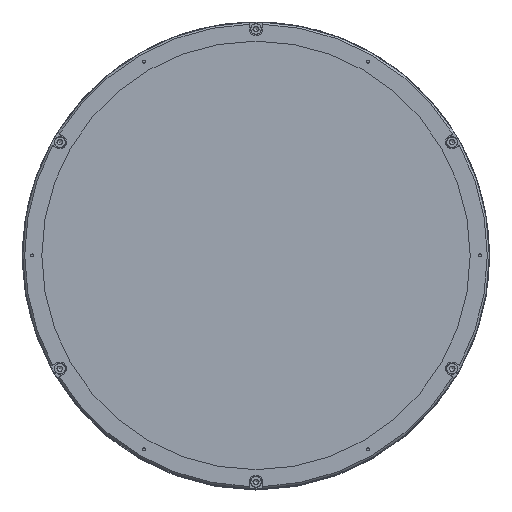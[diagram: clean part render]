
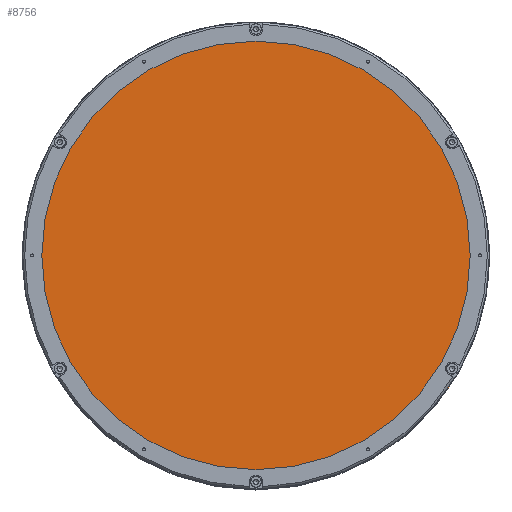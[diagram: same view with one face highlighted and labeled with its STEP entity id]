
A CAD part, top view. The second image highlights one B-rep face of the part: STEP entity #8756.
In plain terms, the highlighted planar face has unit normal (0, 0, 1).
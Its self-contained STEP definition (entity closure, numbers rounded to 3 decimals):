
#1667 = ORIENTED_EDGE ( 'NONE', *, *, #15848, .F. ) ;
#2134 = FACE_BOUND ( 'NONE', #19024, .T. ) ;
#4441 = PLANE ( 'NONE',  #20567 ) ;
#4714 = CARTESIAN_POINT ( 'NONE',  ( 115., 0., 458.38 ) ) ;
#6144 = DIRECTION ( 'NONE',  ( -1., 0., 0. ) ) ;
#7414 = AXIS2_PLACEMENT_3D ( 'NONE', #20654, #20658, #20678 ) ;
#8756 = ADVANCED_FACE ( 'NONE', ( #15622, #2134 ), #4441, .F. ) ;
#9489 = EDGE_LOOP ( 'NONE', ( #10449 ) ) ;
#10449 = ORIENTED_EDGE ( 'NONE', *, *, #18791, .T. ) ;
#11327 = CARTESIAN_POINT ( 'NONE',  ( -114.9, 0., 458.38 ) ) ;
#12116 = CARTESIAN_POINT ( 'NONE',  ( 0., 115., 458.38 ) ) ;
#12894 = VERTEX_POINT ( 'NONE', #11327 ) ;
#13055 = DIRECTION ( 'NONE',  ( 1., 0., 0. ) ) ;
#13096 = DIRECTION ( 'NONE',  ( 0., 0., 1. ) ) ;
#14660 = CIRCLE ( 'NONE', #7414, 114.9 ) ;
#15401 = CARTESIAN_POINT ( 'NONE',  ( 0., 0., 458.38 ) ) ;
#15622 = FACE_OUTER_BOUND ( 'NONE', #9489, .T. ) ;
#15848 = EDGE_CURVE ( 'NONE', #12894, #12894, #14660, .T. ) ;
#15886 = CIRCLE ( 'NONE', #17303, 115. ) ;
#16014 = DIRECTION ( 'NONE',  ( 0., 0., -1. ) ) ;
#17303 = AXIS2_PLACEMENT_3D ( 'NONE', #15401, #13096, #13055 ) ;
#18562 = VERTEX_POINT ( 'NONE', #4714 ) ;
#18791 = EDGE_CURVE ( 'NONE', #18562, #18562, #15886, .T. ) ;
#19024 = EDGE_LOOP ( 'NONE', ( #1667 ) ) ;
#20567 = AXIS2_PLACEMENT_3D ( 'NONE', #12116, #16014, #6144 ) ;
#20654 = CARTESIAN_POINT ( 'NONE',  ( 0., 0., 458.38 ) ) ;
#20658 = DIRECTION ( 'NONE',  ( 0., 0., 1. ) ) ;
#20678 = DIRECTION ( 'NONE',  ( -1., 0., 0. ) ) ;
